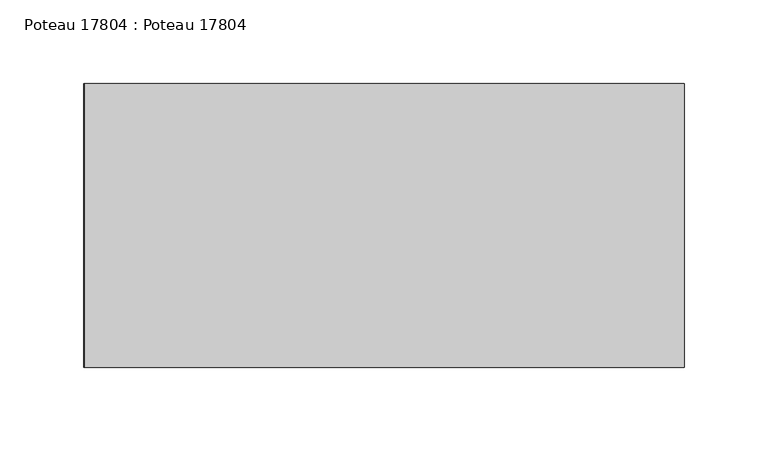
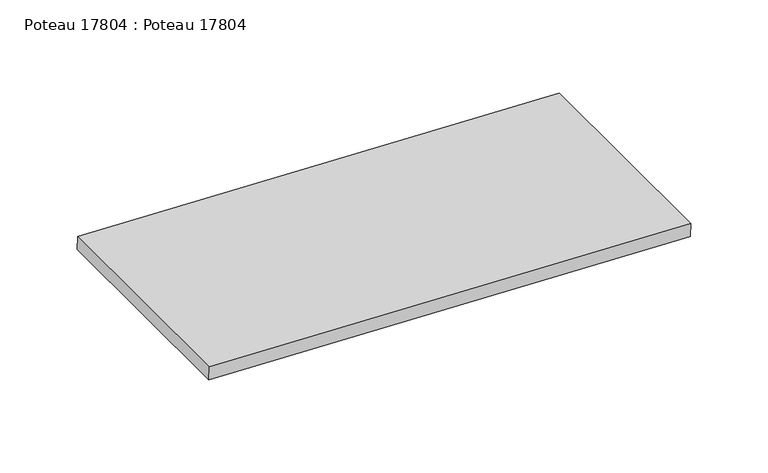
"""IFC4 building model written with IfcOpenShell, lengths in millimetres: beam geometry, Poteau 17804 : Poteau 17804."""

from ifc_helpers import new_model, si_unit, frame, origin, place, context, project, spatial, polyline, outline, extrude, source, transform, mapped, element, save


def poteau_17804_poteau_17804_b7bef1e8(model_context):
    return source(origin(), model_context, "Body", "SweptSolid", [
        extrude(outline(polyline([(0.0, -359.5280199), (0.0, 0.0), (170.0, 0.0), (170.0, -359.5280199), (0.0, -359.5280199)])), frame((179.6180528, -39730.0, 8017.407245), z_axis=(0.03497858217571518, 0.0, 0.9993880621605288), x_axis=(0.0, -1.0, 0.0)), (0.0, 0.0, 1.0), 10.0),
    ])


if __name__ == "__main__":
    model = new_model("IFC4")
    model_context = context("Model", 3, world=origin())
    ifc_project = project(units=[si_unit("LENGTHUNIT", "METRE", prefix="MILLI")], contexts=[model_context])
    site = spatial("IfcSite", under=ifc_project)
    building = spatial("IfcBuilding", under=site)
    placement = place(None, origin())
    poteau_17804_poteau_17804_shape = poteau_17804_poteau_17804_b7bef1e8(model_context)
    element("IfcBeam", 1, ObjectType="Poteau 17804 : Poteau 17804", at=placement, inside=building, context=model_context, shape_type="MappedRepresentation", body=[
        mapped(poteau_17804_poteau_17804_shape, transform((0.0, 0.0, 0.0), x_axis=(1.0, 0.0, 0.0), y_axis=(0.0, 1.0, 0.0), z_axis=(0.0, 0.0, 1.0))),
    ])
    save(model, "model.ifc")
